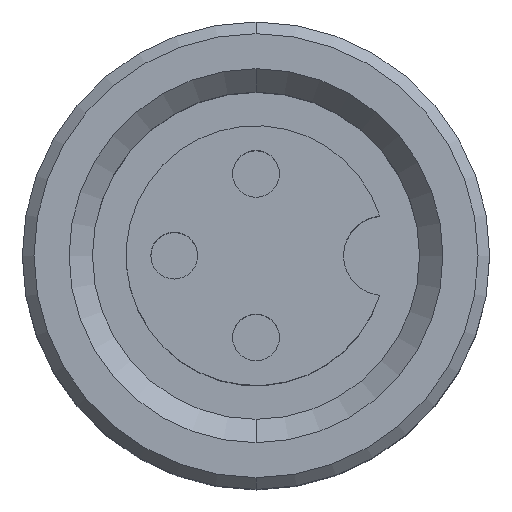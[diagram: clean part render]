
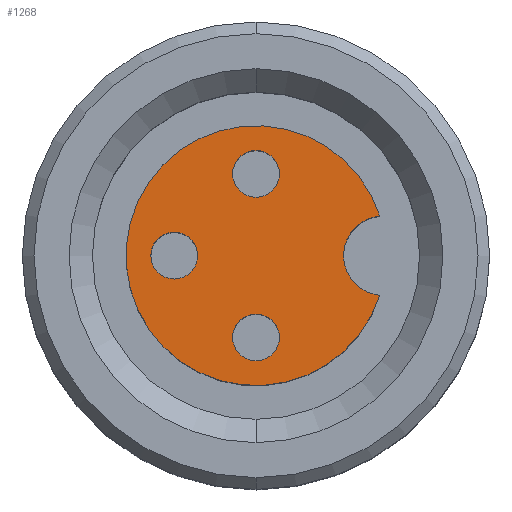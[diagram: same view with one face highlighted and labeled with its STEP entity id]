
A CAD part, top view. The second image highlights one B-rep face of the part: STEP entity #1268.
In plain terms, the highlighted planar face has unit normal (0, 0, 1).
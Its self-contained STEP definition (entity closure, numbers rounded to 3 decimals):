
#422=CARTESIAN_POINT('',(0.,0.,0.));
#423=DIRECTION('',(0.,0.,1.));
#424=DIRECTION('',(0.953,0.304,0.));
#425=AXIS2_PLACEMENT_3D('',#422,#423,#424);
#452=CARTESIAN_POINT('',(0.,1.75,0.));
#453=DIRECTION('',(0.,0.,1.));
#454=DIRECTION('',(1.,0.,0.));
#455=AXIS2_PLACEMENT_3D('',#452,#453,#454);
#460=CARTESIAN_POINT('',(0.,1.75,0.));
#461=DIRECTION('',(0.,0.,1.));
#462=DIRECTION('',(-1.,0.,0.));
#463=AXIS2_PLACEMENT_3D('',#460,#461,#462);
#468=CARTESIAN_POINT('',(-1.75,0.,0.));
#469=DIRECTION('',(0.,0.,1.));
#470=DIRECTION('',(1.,0.,0.));
#471=AXIS2_PLACEMENT_3D('',#468,#469,#470);
#476=CARTESIAN_POINT('',(-1.75,0.,0.));
#477=DIRECTION('',(0.,0.,1.));
#478=DIRECTION('',(-1.,0.,0.));
#479=AXIS2_PLACEMENT_3D('',#476,#477,#478);
#484=CARTESIAN_POINT('',(0.,-1.75,0.));
#485=DIRECTION('',(0.,0.,1.));
#486=DIRECTION('',(1.,0.,0.));
#487=AXIS2_PLACEMENT_3D('',#484,#485,#486);
#492=CARTESIAN_POINT('',(0.,-1.75,0.));
#493=DIRECTION('',(0.,0.,1.));
#494=DIRECTION('',(-1.,0.,0.));
#495=AXIS2_PLACEMENT_3D('',#492,#493,#494);
#500=CARTESIAN_POINT('',(2.725,0.,0.));
#501=DIRECTION('',(0.,0.,1.));
#502=DIRECTION('',(-0.091,0.996,0.));
#503=AXIS2_PLACEMENT_3D('',#500,#501,#502);
#658=CARTESIAN_POINT('',(0.5,1.75,0.));
#659=CARTESIAN_POINT('',(-0.5,1.75,0.));
#660=VERTEX_POINT('',#658);
#661=VERTEX_POINT('',#659);
#662=CARTESIAN_POINT('',(-1.25,0.,0.));
#663=CARTESIAN_POINT('',(-2.25,0.,0.));
#664=VERTEX_POINT('',#662);
#665=VERTEX_POINT('',#663);
#666=CARTESIAN_POINT('',(0.5,-1.75,0.));
#667=CARTESIAN_POINT('',(-0.5,-1.75,0.));
#668=VERTEX_POINT('',#666);
#669=VERTEX_POINT('',#667);
#682=CARTESIAN_POINT('',(2.648,0.847,0.));
#683=CARTESIAN_POINT('',(2.648,-0.847,0.));
#684=VERTEX_POINT('',#682);
#685=VERTEX_POINT('',#683);
#1240=CARTESIAN_POINT('',(0.,0.,0.));
#1241=DIRECTION('',(0.,0.,-1.));
#1242=DIRECTION('',(0.,-1.,0.));
#1243=AXIS2_PLACEMENT_3D('',#1240,#1241,#1242);
#1244=PLANE('',#1243);
#1245=ORIENTED_EDGE('',*,*,#1223,.F.);
#1247=ORIENTED_EDGE('',*,*,#1246,.T.);
#1248=EDGE_LOOP('',(#1245,#1247));
#1249=FACE_OUTER_BOUND('',#1248,.F.);
#1251=ORIENTED_EDGE('',*,*,#1250,.T.);
#1253=ORIENTED_EDGE('',*,*,#1252,.T.);
#1254=EDGE_LOOP('',(#1251,#1253));
#1255=FACE_BOUND('',#1254,.F.);
#1257=ORIENTED_EDGE('',*,*,#1256,.T.);
#1259=ORIENTED_EDGE('',*,*,#1258,.T.);
#1260=EDGE_LOOP('',(#1257,#1259));
#1261=FACE_BOUND('',#1260,.F.);
#1263=ORIENTED_EDGE('',*,*,#1262,.T.);
#1265=ORIENTED_EDGE('',*,*,#1264,.T.);
#1266=EDGE_LOOP('',(#1263,#1265));
#1267=FACE_BOUND('',#1266,.F.);
#1268=ADVANCED_FACE('',(#1249,#1255,#1261,#1267),#1244,.F.);
#426=CIRCLE('',#425,2.78);
#456=CIRCLE('',#455,0.5);
#464=CIRCLE('',#463,0.5);
#472=CIRCLE('',#471,0.5);
#480=CIRCLE('',#479,0.5);
#488=CIRCLE('',#487,0.5);
#496=CIRCLE('',#495,0.5);
#504=CIRCLE('',#503,0.85);
#1223=EDGE_CURVE('',#684,#685,#426,.T.);
#1246=EDGE_CURVE('',#684,#685,#504,.T.);
#1250=EDGE_CURVE('',#664,#665,#472,.T.);
#1252=EDGE_CURVE('',#665,#664,#480,.T.);
#1256=EDGE_CURVE('',#668,#669,#488,.T.);
#1258=EDGE_CURVE('',#669,#668,#496,.T.);
#1262=EDGE_CURVE('',#660,#661,#456,.T.);
#1264=EDGE_CURVE('',#661,#660,#464,.T.);
